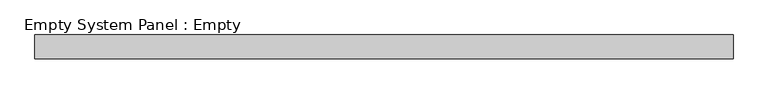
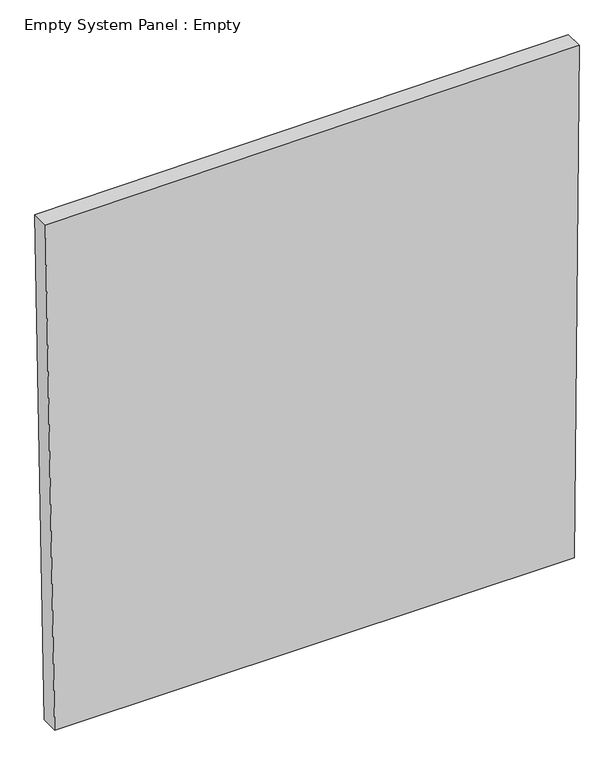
"""IFC4 building model written with IfcOpenShell, lengths in millimetres: plate geometry, Empty System Panel : Empty."""

from ifc_helpers import new_model, si_unit, frame, origin, place, context, project, spatial, polyline, outline, extrude, source, transform, mapped, element, save


def empty_system_panel_empty_65ab245d(model_context):
    return source(origin(), model_context, "Body", "SweptSolid", [
        extrude(outline(polyline([(0.0, -1431.021752), (0.0, 1456.1826468), (3000.5901183, 1481.8529722), (2981.2270414, -1481.8529722), (0.0, -1431.021752)])), frame((0.0, -50.8, 0.0), z_axis=(0.0, 1.0, 0.0), x_axis=(0.0, 0.0, 1.0)), (0.0, 0.0, 1.0), 101.6),
    ])


if __name__ == "__main__":
    model = new_model("IFC4")
    model_context = context("Model", 3, world=origin())
    ifc_project = project(units=[si_unit("LENGTHUNIT", "METRE", prefix="MILLI")], contexts=[model_context])
    site = spatial("IfcSite", under=ifc_project)
    building = spatial("IfcBuilding", under=site)
    placement = place(None, origin())
    empty_system_panel_empty_shape = empty_system_panel_empty_65ab245d(model_context)
    element("IfcPlate", 1, ObjectType="Empty System Panel : Empty", at=placement, inside=building, context=model_context, shape_type="MappedRepresentation", body=[
        mapped(empty_system_panel_empty_shape, transform((0.0, 0.0, 0.0), x_axis=(1.0, 0.0, 0.0), y_axis=(0.0, 1.0, 0.0), z_axis=(0.0, 0.0, 1.0))),
    ])
    save(model, "model.ifc")
